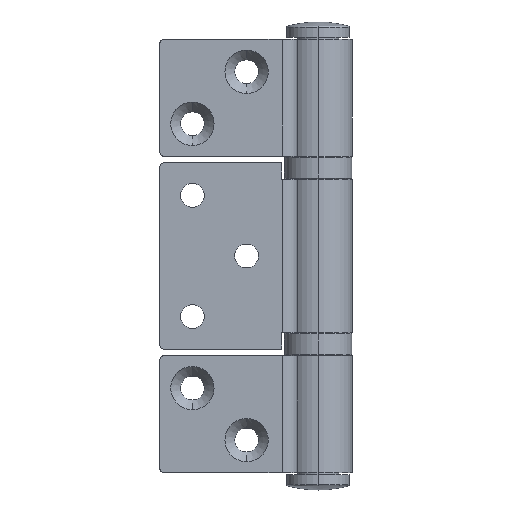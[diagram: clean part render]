
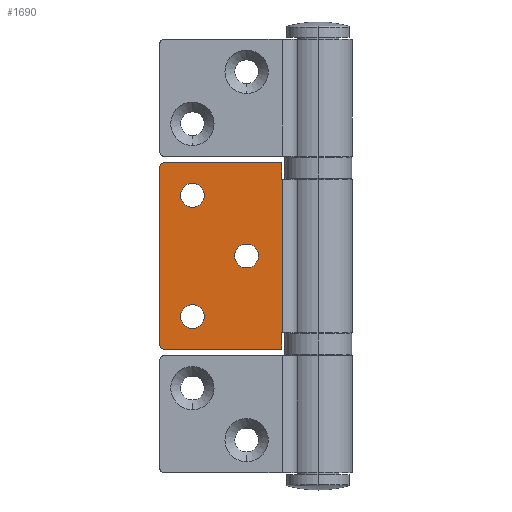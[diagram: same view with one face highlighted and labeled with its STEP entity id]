
A CAD part, top view. The second image highlights one B-rep face of the part: STEP entity #1690.
In plain terms, the highlighted planar face has unit normal (0, 0, 1) as drawn and (-1, 0, 0) by its records, which use the part's own axes.
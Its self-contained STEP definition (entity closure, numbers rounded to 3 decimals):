
#18 = VERTEX_POINT ( 'NONE', #3291 ) ;
#41 = DIRECTION ( 'NONE',  ( 0., -1., 0. ) ) ;
#49 = EDGE_CURVE ( 'NONE', #1766, #1774, #1012, .T. ) ;
#57 = DIRECTION ( 'NONE',  ( 1., 0., 0. ) ) ;
#60 = EDGE_LOOP ( 'NONE', ( #2629, #932 ) ) ;
#65 = CARTESIAN_POINT ( 'NONE',  ( -9.1, 36.5, 39.2 ) ) ;
#90 = ORIENTED_EDGE ( 'NONE', *, *, #1468, .T. ) ;
#121 = DIRECTION ( 'NONE',  ( 0., 0., 1. ) ) ;
#157 = EDGE_CURVE ( 'NONE', #497, #2619, #766, .T. ) ;
#167 = DIRECTION ( 'NONE',  ( 0., 1., 0. ) ) ;
#172 = CARTESIAN_POINT ( 'NONE',  ( -9.1, 8.4, 43. ) ) ;
#211 = CARTESIAN_POINT ( 'NONE',  ( -9.1, 31.75, 7.5 ) ) ;
#220 = FACE_BOUND ( 'NONE', #671, .T. ) ;
#227 = CARTESIAN_POINT ( 'NONE',  ( -9.1, 29., 7.5 ) ) ;
#324 = ORIENTED_EDGE ( 'NONE', *, *, #1761, .T. ) ;
#370 = VECTOR ( 'NONE', #652, 1000. ) ;
#388 = DIRECTION ( 'NONE',  ( 0., 0., 1. ) ) ;
#402 = CARTESIAN_POINT ( 'NONE',  ( -9.1, 8.4, 3.8 ) ) ;
#411 = DIRECTION ( 'NONE',  ( 0., 1., 0. ) ) ;
#431 = AXIS2_PLACEMENT_3D ( 'NONE', #227, #2851, #1727 ) ;
#442 = VERTEX_POINT ( 'NONE', #513 ) ;
#468 = VERTEX_POINT ( 'NONE', #794 ) ;
#469 = DIRECTION ( 'NONE',  ( 0., -1., 0. ) ) ;
#474 = CARTESIAN_POINT ( 'NONE',  ( -9.1, 16.5, 21.5 ) ) ;
#497 = VERTEX_POINT ( 'NONE', #402 ) ;
#504 = ORIENTED_EDGE ( 'NONE', *, *, #3174, .T. ) ;
#513 = CARTESIAN_POINT ( 'NONE',  ( -9.1, 26.25, 7.5 ) ) ;
#515 = CARTESIAN_POINT ( 'NONE',  ( -9.1, 8.303, 39.2 ) ) ;
#516 = ORIENTED_EDGE ( 'NONE', *, *, #3293, .T. ) ;
#576 = CARTESIAN_POINT ( 'NONE',  ( -9.1, 8.4, 0. ) ) ;
#592 = CARTESIAN_POINT ( 'NONE',  ( -9.1, 16.5, 21.5 ) ) ;
#594 = VECTOR ( 'NONE', #3349, 1000. ) ;
#637 = LINE ( 'NONE', #2615, #2413 ) ;
#652 = DIRECTION ( 'NONE',  ( 0., 1., 0. ) ) ;
#656 = LINE ( 'NONE', #1504, #3610 ) ;
#671 = EDGE_LOOP ( 'NONE', ( #683, #90 ) ) ;
#679 = CIRCLE ( 'NONE', #3488, 2.75 ) ;
#683 = ORIENTED_EDGE ( 'NONE', *, *, #3435, .T. ) ;
#699 = VERTEX_POINT ( 'NONE', #172 ) ;
#734 = AXIS2_PLACEMENT_3D ( 'NONE', #592, #2916, #899 ) ;
#747 = VECTOR ( 'NONE', #121, 1000. ) ;
#766 = LINE ( 'NONE', #1907, #594 ) ;
#769 = FACE_OUTER_BOUND ( 'NONE', #2156, .T. ) ;
#794 = CARTESIAN_POINT ( 'NONE',  ( -9.1, 36.5, 1. ) ) ;
#830 = FACE_BOUND ( 'NONE', #2426, .T. ) ;
#883 = CARTESIAN_POINT ( 'NONE',  ( -9.1, 35.5, 0. ) ) ;
#899 = DIRECTION ( 'NONE',  ( 0., 1., 0. ) ) ;
#911 = CIRCLE ( 'NONE', #3005, 1. ) ;
#928 = DIRECTION ( 'NONE',  ( 0., 1., 0. ) ) ;
#932 = ORIENTED_EDGE ( 'NONE', *, *, #2691, .T. ) ;
#952 = VERTEX_POINT ( 'NONE', #2848 ) ;
#956 = LINE ( 'NONE', #3034, #2888 ) ;
#976 = AXIS2_PLACEMENT_3D ( 'NONE', #2912, #57, #1213 ) ;
#977 = AXIS2_PLACEMENT_3D ( 'NONE', #1722, #2280, #928 ) ;
#1012 = LINE ( 'NONE', #2179, #2150 ) ;
#1084 = CARTESIAN_POINT ( 'NONE',  ( -9.1, 35.5, 42. ) ) ;
#1167 = EDGE_CURVE ( 'NONE', #1815, #1586, #2756, .T. ) ;
#1183 = DIRECTION ( 'NONE',  ( 0., 0., 1. ) ) ;
#1213 = DIRECTION ( 'NONE',  ( 0., 1., 0. ) ) ;
#1232 = ORIENTED_EDGE ( 'NONE', *, *, #49, .T. ) ;
#1417 = PLANE ( 'NONE',  #2048 ) ;
#1468 = EDGE_CURVE ( 'NONE', #2176, #952, #2336, .T. ) ;
#1470 = LINE ( 'NONE', #65, #370 ) ;
#1495 = LINE ( 'NONE', #2414, #3178 ) ;
#1504 = CARTESIAN_POINT ( 'NONE',  ( -9.1, 8.4, 43. ) ) ;
#1523 = CARTESIAN_POINT ( 'NONE',  ( -9.1, 8.4, 43. ) ) ;
#1586 = VERTEX_POINT ( 'NONE', #2772 ) ;
#1607 = CARTESIAN_POINT ( 'NONE',  ( -9.1, 8.303, 3.8 ) ) ;
#1627 = VERTEX_POINT ( 'NONE', #3412 ) ;
#1641 = DIRECTION ( 'NONE',  ( 1., 0., 0. ) ) ;
#1689 = DIRECTION ( 'NONE',  ( 0., 1., 0. ) ) ;
#1690 = ADVANCED_FACE ( 'NONE', ( #220, #2534, #830, #769 ), #1417, .F. ) ;
#1715 = DIRECTION ( 'NONE',  ( -1., 0., 0. ) ) ;
#1722 = CARTESIAN_POINT ( 'NONE',  ( -9.1, 35.5, 1. ) ) ;
#1727 = DIRECTION ( 'NONE',  ( 0., 1., 0. ) ) ;
#1761 = EDGE_CURVE ( 'NONE', #468, #1766, #3240, .T. ) ;
#1766 = VERTEX_POINT ( 'NONE', #883 ) ;
#1772 = ORIENTED_EDGE ( 'NONE', *, *, #1804, .T. ) ;
#1773 = ORIENTED_EDGE ( 'NONE', *, *, #2518, .T. ) ;
#1774 = VERTEX_POINT ( 'NONE', #576 ) ;
#1804 = EDGE_CURVE ( 'NONE', #3634, #2151, #1470, .T. ) ;
#1815 = VERTEX_POINT ( 'NONE', #2600 ) ;
#1856 = EDGE_CURVE ( 'NONE', #18, #699, #637, .T. ) ;
#1871 = CIRCLE ( 'NONE', #431, 2.75 ) ;
#1881 = CARTESIAN_POINT ( 'NONE',  ( -9.1, 29., 35.5 ) ) ;
#1901 = EDGE_CURVE ( 'NONE', #1627, #468, #956, .T. ) ;
#1907 = CARTESIAN_POINT ( 'NONE',  ( -9.1, 36.5, 3.8 ) ) ;
#1919 = EDGE_CURVE ( 'NONE', #2151, #699, #2094, .T. ) ;
#1936 = AXIS2_PLACEMENT_3D ( 'NONE', #2286, #1641, #2834 ) ;
#2048 = AXIS2_PLACEMENT_3D ( 'NONE', #3678, #2550, #1689 ) ;
#2094 = LINE ( 'NONE', #1523, #747 ) ;
#2150 = VECTOR ( 'NONE', #469, 1000. ) ;
#2151 = VERTEX_POINT ( 'NONE', #2180 ) ;
#2156 = EDGE_LOOP ( 'NONE', ( #2704, #1773, #1772, #2312, #3445, #2476, #2535, #324, #1232, #516 ) ) ;
#2176 = VERTEX_POINT ( 'NONE', #2272 ) ;
#2179 = CARTESIAN_POINT ( 'NONE',  ( -9.1, 36.5, 0. ) ) ;
#2180 = CARTESIAN_POINT ( 'NONE',  ( -9.1, 8.4, 39.2 ) ) ;
#2272 = CARTESIAN_POINT ( 'NONE',  ( -9.1, 13.75, 21.5 ) ) ;
#2273 = AXIS2_PLACEMENT_3D ( 'NONE', #1881, #2998, #411 ) ;
#2280 = DIRECTION ( 'NONE',  ( -1., 0., 0. ) ) ;
#2286 = CARTESIAN_POINT ( 'NONE',  ( -9.1, 29., 35.5 ) ) ;
#2312 = ORIENTED_EDGE ( 'NONE', *, *, #1919, .T. ) ;
#2336 = CIRCLE ( 'NONE', #734, 2.75 ) ;
#2393 = DIRECTION ( 'NONE',  ( 0., 0., -1. ) ) ;
#2413 = VECTOR ( 'NONE', #41, 1000. ) ;
#2414 = CARTESIAN_POINT ( 'NONE',  ( -9.1, 8.303, 43. ) ) ;
#2416 = CIRCLE ( 'NONE', #1936, 2.75 ) ;
#2426 = EDGE_LOOP ( 'NONE', ( #504, #3408 ) ) ;
#2476 = ORIENTED_EDGE ( 'NONE', *, *, #2742, .T. ) ;
#2518 = EDGE_CURVE ( 'NONE', #2619, #3634, #1495, .T. ) ;
#2534 = FACE_BOUND ( 'NONE', #60, .T. ) ;
#2535 = ORIENTED_EDGE ( 'NONE', *, *, #1901, .T. ) ;
#2550 = DIRECTION ( 'NONE',  ( 1., 0., 0. ) ) ;
#2558 = EDGE_CURVE ( 'NONE', #3200, #442, #3425, .T. ) ;
#2600 = CARTESIAN_POINT ( 'NONE',  ( -9.1, 26.25, 35.5 ) ) ;
#2615 = CARTESIAN_POINT ( 'NONE',  ( -9.1, 36.5, 43. ) ) ;
#2619 = VERTEX_POINT ( 'NONE', #1607 ) ;
#2629 = ORIENTED_EDGE ( 'NONE', *, *, #2558, .T. ) ;
#2691 = EDGE_CURVE ( 'NONE', #442, #3200, #1871, .T. ) ;
#2704 = ORIENTED_EDGE ( 'NONE', *, *, #157, .T. ) ;
#2742 = EDGE_CURVE ( 'NONE', #18, #1627, #911, .T. ) ;
#2756 = CIRCLE ( 'NONE', #2273, 2.75 ) ;
#2772 = CARTESIAN_POINT ( 'NONE',  ( -9.1, 31.75, 35.5 ) ) ;
#2834 = DIRECTION ( 'NONE',  ( 0., 1., 0. ) ) ;
#2848 = CARTESIAN_POINT ( 'NONE',  ( -9.1, 19.25, 21.5 ) ) ;
#2851 = DIRECTION ( 'NONE',  ( 1., 0., 0. ) ) ;
#2888 = VECTOR ( 'NONE', #2393, 1000. ) ;
#2912 = CARTESIAN_POINT ( 'NONE',  ( -9.1, 29., 7.5 ) ) ;
#2916 = DIRECTION ( 'NONE',  ( 1., 0., 0. ) ) ;
#2998 = DIRECTION ( 'NONE',  ( 1., 0., 0. ) ) ;
#3005 = AXIS2_PLACEMENT_3D ( 'NONE', #1084, #1715, #3119 ) ;
#3034 = CARTESIAN_POINT ( 'NONE',  ( -9.1, 36.5, 43. ) ) ;
#3119 = DIRECTION ( 'NONE',  ( 0., 1., 0. ) ) ;
#3174 = EDGE_CURVE ( 'NONE', #1586, #1815, #2416, .T. ) ;
#3178 = VECTOR ( 'NONE', #388, 1000. ) ;
#3200 = VERTEX_POINT ( 'NONE', #211 ) ;
#3240 = CIRCLE ( 'NONE', #977, 1. ) ;
#3291 = CARTESIAN_POINT ( 'NONE',  ( -9.1, 35.5, 43. ) ) ;
#3293 = EDGE_CURVE ( 'NONE', #1774, #497, #656, .T. ) ;
#3349 = DIRECTION ( 'NONE',  ( 0., -1., 0. ) ) ;
#3408 = ORIENTED_EDGE ( 'NONE', *, *, #1167, .T. ) ;
#3412 = CARTESIAN_POINT ( 'NONE',  ( -9.1, 36.5, 42. ) ) ;
#3425 = CIRCLE ( 'NONE', #976, 2.75 ) ;
#3435 = EDGE_CURVE ( 'NONE', #952, #2176, #679, .T. ) ;
#3445 = ORIENTED_EDGE ( 'NONE', *, *, #1856, .F. ) ;
#3488 = AXIS2_PLACEMENT_3D ( 'NONE', #474, #3600, #167 ) ;
#3600 = DIRECTION ( 'NONE',  ( 1., 0., 0. ) ) ;
#3610 = VECTOR ( 'NONE', #1183, 1000. ) ;
#3634 = VERTEX_POINT ( 'NONE', #515 ) ;
#3678 = CARTESIAN_POINT ( 'NONE',  ( -9.1, 36.5, 43. ) ) ;
